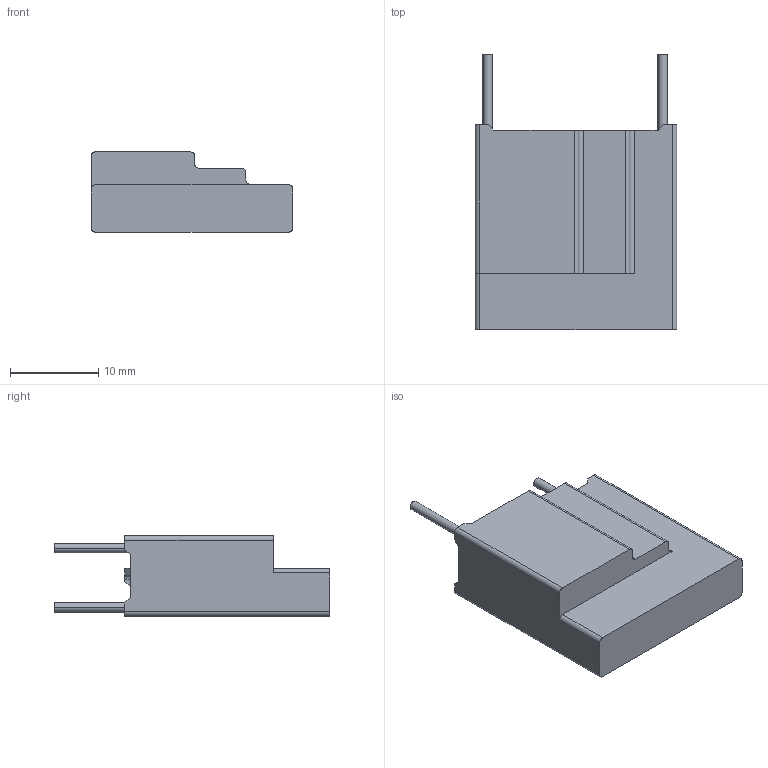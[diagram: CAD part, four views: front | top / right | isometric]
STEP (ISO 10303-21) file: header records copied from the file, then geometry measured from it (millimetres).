
FILE_DESCRIPTION((''),'2;1');
FILE_NAME('20S4201-20200616','2020-06-18T',('set'),(''),'PRO/ENGINEER BY PARAMETRIC TECHNOLOGY CORPORATION, 2012310','PRO/ENGINEER BY PARAMETRIC TECHNOLOGY CORPORATION, 2012310','');
FILE_SCHEMA(('CONFIG_CONTROL_DESIGN','SHAPE_APPEARANCE_LAYERS_GROUPS'));
Length unit declared in the file: millimetre
Products named in the file (1): 20S4201-20200616
Bounding box: 22.8 x 31.2 x 9.1 mm (x, y, z)
Volume: 1268.7 mm3; surface area: 3270.2 mm2
Topology: 1 solids, 2 shells, 101 faces, 283 edges, 188 vertices
Faces by surface type: plane 77, cylinder 24
Entity records: 3279 total; most frequent: CARTESIAN_POINT 572, ORIENTED_EDGE 566, DIRECTION 534, EDGE_CURVE 283, VECTOR 234, LINE 234, VERTEX_POINT 188, AXIS2_PLACEMENT_3D 150
